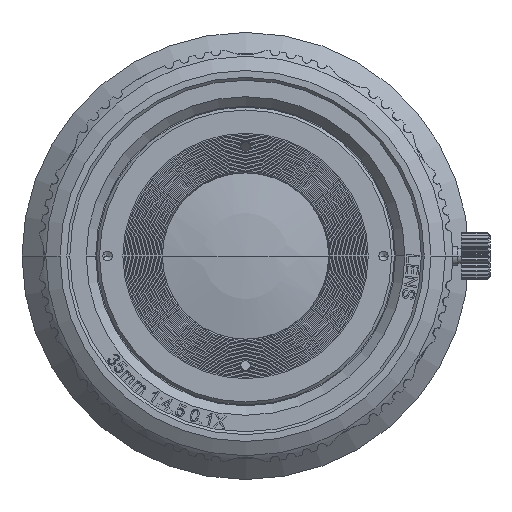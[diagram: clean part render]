
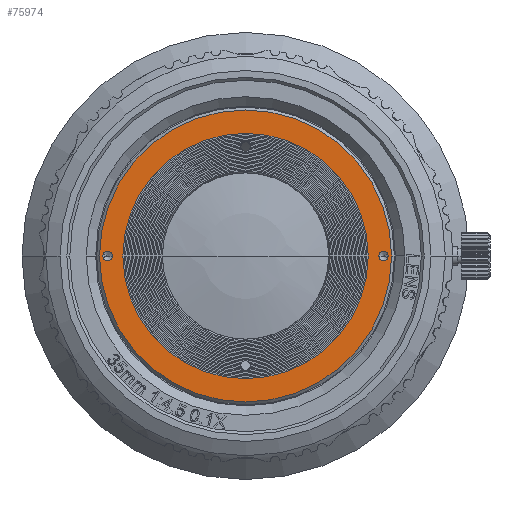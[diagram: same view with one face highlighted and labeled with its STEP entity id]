
A CAD part, left-side view. The second image highlights one B-rep face of the part: STEP entity #75974.
In plain terms, the highlighted planar face has unit normal (-1, 0, 0).
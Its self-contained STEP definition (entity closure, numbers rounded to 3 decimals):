
#29727=CARTESIAN_POINT('',(-18.61,0.,0.));
#29728=DIRECTION('',(1.,0.,0.));
#29729=DIRECTION('',(0.,1.,0.));
#29730=AXIS2_PLACEMENT_3D('',#29727,#29728,#29729);
#29732=CARTESIAN_POINT('',(-18.61,0.,0.));
#29733=DIRECTION('',(1.,0.,0.));
#29734=DIRECTION('',(0.,0.,1.));
#29735=AXIS2_PLACEMENT_3D('',#29732,#29733,#29734);
#29737=CARTESIAN_POINT('',(-18.61,0.,0.));
#29738=DIRECTION('',(1.,0.,0.));
#29739=DIRECTION('',(0.,-1.,0.));
#29740=AXIS2_PLACEMENT_3D('',#29737,#29738,#29739);
#29742=CARTESIAN_POINT('',(-18.61,0.,0.));
#29743=DIRECTION('',(1.,0.,0.));
#29744=DIRECTION('',(0.,0.,-1.));
#29745=AXIS2_PLACEMENT_3D('',#29742,#29743,#29744);
#29747=CARTESIAN_POINT('',(-18.61,0.,0.));
#29748=DIRECTION('',(-1.,0.,0.));
#29749=DIRECTION('',(0.,-1.,0.));
#29750=AXIS2_PLACEMENT_3D('',#29747,#29748,#29749);
#29752=CARTESIAN_POINT('',(-18.61,0.,0.));
#29753=DIRECTION('',(-1.,0.,0.));
#29754=DIRECTION('',(0.,1.,0.));
#29755=AXIS2_PLACEMENT_3D('',#29752,#29753,#29754);
#29757=CARTESIAN_POINT('',(-18.61,14.5,0.));
#29758=DIRECTION('',(-1.,0.,0.));
#29759=DIRECTION('',(0.,1.,0.));
#29760=AXIS2_PLACEMENT_3D('',#29757,#29758,#29759);
#29762=CARTESIAN_POINT('',(-18.61,14.5,0.));
#29763=DIRECTION('',(-1.,0.,0.));
#29764=DIRECTION('',(0.,-1.,0.));
#29765=AXIS2_PLACEMENT_3D('',#29762,#29763,#29764);
#29767=CARTESIAN_POINT('',(-18.61,-14.5,0.));
#29768=DIRECTION('',(-1.,0.,0.));
#29769=DIRECTION('',(0.,1.,0.));
#29770=AXIS2_PLACEMENT_3D('',#29767,#29768,#29769);
#29772=CARTESIAN_POINT('',(-18.61,-14.5,0.));
#29773=DIRECTION('',(-1.,0.,0.));
#29774=DIRECTION('',(0.,-1.,0.));
#29775=AXIS2_PLACEMENT_3D('',#29772,#29773,#29774);
#36960=CARTESIAN_POINT('',(-18.61,0.,-15.35));
#36961=CARTESIAN_POINT('',(-18.61,15.35,0.));
#36962=VERTEX_POINT('',#36960);
#36963=VERTEX_POINT('',#36961);
#36964=CARTESIAN_POINT('',(-18.61,-15.35,0.));
#36965=VERTEX_POINT('',#36964);
#36966=CARTESIAN_POINT('',(-18.61,0.,15.35));
#36967=VERTEX_POINT('',#36966);
#36968=CARTESIAN_POINT('',(-18.61,-12.894,0.));
#36969=CARTESIAN_POINT('',(-18.61,12.894,0.));
#36970=VERTEX_POINT('',#36968);
#36971=VERTEX_POINT('',#36969);
#36972=CARTESIAN_POINT('',(-18.61,15.,0.));
#36973=CARTESIAN_POINT('',(-18.61,14.,0.));
#36974=VERTEX_POINT('',#36972);
#36975=VERTEX_POINT('',#36973);
#36976=CARTESIAN_POINT('',(-18.61,-14.,0.));
#36977=CARTESIAN_POINT('',(-18.61,-15.,0.));
#36978=VERTEX_POINT('',#36976);
#36979=VERTEX_POINT('',#36977);
#75943=CARTESIAN_POINT('',(-18.61,0.,0.));
#75944=DIRECTION('',(1.,0.,0.));
#75945=DIRECTION('',(0.,-1.,0.));
#75946=AXIS2_PLACEMENT_3D('',#75943,#75944,#75945);
#75947=PLANE('',#75946);
#75949=ORIENTED_EDGE('',*,*,#75948,.T.);
#75951=ORIENTED_EDGE('',*,*,#75950,.T.);
#75952=ORIENTED_EDGE('',*,*,#75932,.T.);
#75953=ORIENTED_EDGE('',*,*,#75930,.T.);
#75954=EDGE_LOOP('',(#75949,#75951,#75952,#75953));
#75955=FACE_OUTER_BOUND('',#75954,.F.);
#75957=ORIENTED_EDGE('',*,*,#75956,.T.);
#75959=ORIENTED_EDGE('',*,*,#75958,.T.);
#75960=EDGE_LOOP('',(#75957,#75959));
#75961=FACE_BOUND('',#75960,.F.);
#75963=ORIENTED_EDGE('',*,*,#75962,.T.);
#75965=ORIENTED_EDGE('',*,*,#75964,.T.);
#75966=EDGE_LOOP('',(#75963,#75965));
#75967=FACE_BOUND('',#75966,.F.);
#75969=ORIENTED_EDGE('',*,*,#75968,.T.);
#75971=ORIENTED_EDGE('',*,*,#75970,.T.);
#75972=EDGE_LOOP('',(#75969,#75971));
#75973=FACE_BOUND('',#75972,.F.);
#29731=CIRCLE('',#29730,15.35);
#29736=CIRCLE('',#29735,15.35);
#29741=CIRCLE('',#29740,15.35);
#29746=CIRCLE('',#29745,15.35);
#29751=CIRCLE('',#29750,12.894);
#29756=CIRCLE('',#29755,12.894);
#29761=CIRCLE('',#29760,0.5);
#29766=CIRCLE('',#29765,0.5);
#29771=CIRCLE('',#29770,0.5);
#29776=CIRCLE('',#29775,0.5);
#75930=EDGE_CURVE('',#36962,#36963,#29746,.T.);
#75932=EDGE_CURVE('',#36965,#36962,#29741,.T.);
#75948=EDGE_CURVE('',#36963,#36967,#29731,.T.);
#75950=EDGE_CURVE('',#36967,#36965,#29736,.T.);
#75956=EDGE_CURVE('',#36970,#36971,#29751,.T.);
#75958=EDGE_CURVE('',#36971,#36970,#29756,.T.);
#75962=EDGE_CURVE('',#36974,#36975,#29761,.T.);
#75964=EDGE_CURVE('',#36975,#36974,#29766,.T.);
#75968=EDGE_CURVE('',#36978,#36979,#29771,.T.);
#75970=EDGE_CURVE('',#36979,#36978,#29776,.T.);
#75974=ADVANCED_FACE('',(#75955,#75961,#75967,#75973),#75947,.F.);
